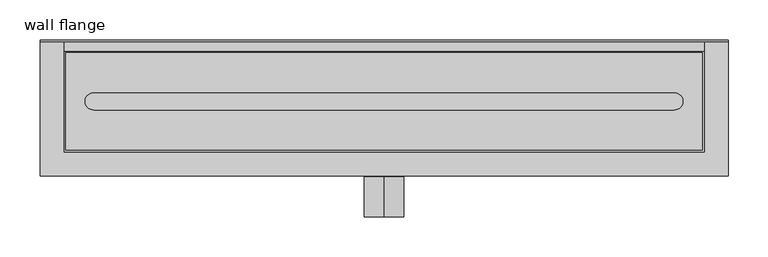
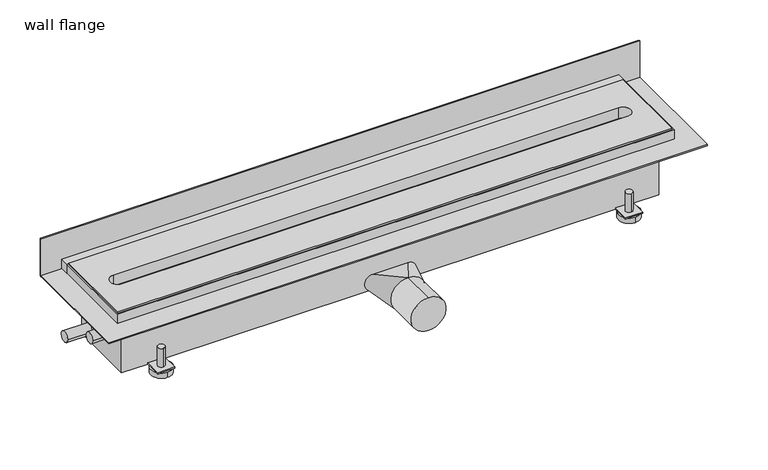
"""IFC4 building model written with IfcOpenShell, lengths in millimetres: sanitary terminal geometry, PF_UN_ShowerDrain X_ACO : wall flange."""

from ifc_helpers import new_model, si_unit, point, frame, frame_2d, origin, origin_with_axes, place, context, project, spatial, polyline, circle_curve, trimmed, segment, composite_curve, outline, extrude, faceted_brep, source, transform, mapped, element, save
from ifc_brep_helpers import plane_surface, cylinder_surface, spline_surface, advanced_brep


def wall_flange_c72accb7(model_context):
    return source(origin(), model_context, "Body", "SolidModel", [
        advanced_brep(
        [(-336.0, 67.0, -56.0), (-336.0, 57.0, -56.0), (-336.0, 77.0, -94.0), (-336.0, 47.0, -94.0), (-336.0, 67.0, -86.0), (-336.0, 57.0, -86.0), (-336.0, 77.0, -86.0), (-336.0, 47.0, -86.0)],
        [
            (0, 1, circle_curve(frame((-336.0, 62.0, -56.0), z_axis=(0.0, 0.0, 1.0), x_axis=(0.0, -1.0, 0.0)), 5.0)),
            (1, 0, circle_curve(frame((-336.0, 62.0, -56.0), z_axis=(0.0, 0.0, 1.0), x_axis=(0.0, -1.0, 0.0)), 5.0)),
            (2, 3, circle_curve(frame((-336.0, 62.0, -94.0), z_axis=(0.0, 0.0, -1.0), x_axis=(0.0, -1.0, 0.0)), 15.0)),
            (3, 2, circle_curve(frame((-336.0, 62.0, -94.0), z_axis=(0.0, 0.0, -1.0), x_axis=(0.0, -1.0, 0.0)), 15.0)),
            (0, 4),
            (4, 5, circle_curve(frame((-336.0, 62.0, -86.0), z_axis=(0.0, 0.0, 1.0), x_axis=(0.0, -1.0, 0.0)), 5.0)),
            (5, 1),
            (5, 4, circle_curve(frame((-336.0, 62.0, -86.0), z_axis=(0.0, 0.0, 1.0), x_axis=(0.0, -1.0, 0.0)), 5.0)),
            (6, 7, circle_curve(frame((-336.0, 62.0, -86.0), z_axis=(0.0, 0.0, 1.0), x_axis=(0.0, -1.0, 0.0)), 15.0)),
            (7, 6, circle_curve(frame((-336.0, 62.0, -86.0), z_axis=(0.0, 0.0, 1.0), x_axis=(0.0, -1.0, 0.0)), 15.0)),
            (6, 2),
            (3, 7),
        ],
        [
            plane_surface(frame((-336.0, 57.0, -56.0), z_axis=(0.0, 0.0, 1.0), x_axis=(1.0, 0.0, 0.0))),
            plane_surface(frame((-336.0, 57.0, -94.0), z_axis=(0.0, 0.0, -1.0), x_axis=(-1.0, 0.0, 0.0))),
            cylinder_surface(frame((-336.0, 62.0, -94.0), z_axis=(0.0, 0.0, 1.0), x_axis=(0.0, -1.0, 0.0)), 5.0),
            plane_surface(frame((-336.0, 47.0, -86.0), z_axis=(0.0, 0.0, 1.0), x_axis=(1.0, 0.0, 0.0))),
            cylinder_surface(frame((-336.0, 62.0, -94.0), z_axis=(0.0, 0.0, 1.0), x_axis=(0.0, -1.0, 0.0)), 15.0),
        ],
        [
            (0, [[1, 2]]),
            (1, [[3, 4]]),
            (2, [[-1, 5, 6, 7]]),
            (2, [[-2, -7, 8, -5]]),
            (3, [[9, 10], [-6, -8]]),
            (4, [[-9, 11, -4, 12]]),
            (4, [[-10, -12, -3, -11]]),
        ],
    ),
        advanced_brep(
        [(-336.0, -56.5, -56.0), (-336.0, -66.5, -56.0), (-336.0, -46.5, -94.0), (-336.0, -76.5, -94.0), (-336.0, -56.5, -86.0), (-336.0, -66.5, -86.0), (-336.0, -46.5, -86.0), (-336.0, -76.5, -86.0)],
        [
            (0, 1, circle_curve(frame((-336.0, -61.5, -56.0), z_axis=(0.0, 0.0, 1.0), x_axis=(0.0, -1.0, 0.0)), 5.0)),
            (1, 0, circle_curve(frame((-336.0, -61.5, -56.0), z_axis=(0.0, 0.0, 1.0), x_axis=(0.0, -1.0, 0.0)), 5.0)),
            (2, 3, circle_curve(frame((-336.0, -61.5, -94.0), z_axis=(0.0, 0.0, -1.0), x_axis=(0.0, -1.0, 0.0)), 15.0)),
            (3, 2, circle_curve(frame((-336.0, -61.5, -94.0), z_axis=(0.0, 0.0, -1.0), x_axis=(0.0, -1.0, 0.0)), 15.0)),
            (0, 4),
            (4, 5, circle_curve(frame((-336.0, -61.5, -86.0), z_axis=(0.0, 0.0, 1.0), x_axis=(0.0, -1.0, 0.0)), 5.0)),
            (5, 1),
            (5, 4, circle_curve(frame((-336.0, -61.5, -86.0), z_axis=(0.0, 0.0, 1.0), x_axis=(0.0, -1.0, 0.0)), 5.0)),
            (6, 7, circle_curve(frame((-336.0, -61.5, -86.0), z_axis=(0.0, 0.0, 1.0), x_axis=(0.0, -1.0, 0.0)), 15.0)),
            (7, 6, circle_curve(frame((-336.0, -61.5, -86.0), z_axis=(0.0, 0.0, 1.0), x_axis=(0.0, -1.0, 0.0)), 15.0)),
            (6, 2),
            (3, 7),
        ],
        [
            plane_surface(frame((-336.0, 57.0, -56.0), z_axis=(0.0, 0.0, 1.0), x_axis=(1.0, 0.0, 0.0))),
            plane_surface(frame((-336.0, 57.0, -94.0), z_axis=(0.0, 0.0, -1.0), x_axis=(-1.0, 0.0, 0.0))),
            cylinder_surface(frame((-336.0, -61.5, -94.0), z_axis=(0.0, 0.0, 1.0), x_axis=(0.0, -1.0, 0.0)), 5.0),
            plane_surface(frame((-336.0, 47.0, -86.0), z_axis=(0.0, 0.0, 1.0), x_axis=(1.0, 0.0, 0.0))),
            cylinder_surface(frame((-336.0, -61.5, -94.0), z_axis=(0.0, 0.0, 1.0), x_axis=(0.0, -1.0, 0.0)), 15.0),
        ],
        [
            (0, [[1, 2]]),
            (1, [[3, 4]]),
            (2, [[-1, 5, 6, 7]]),
            (2, [[-2, -7, 8, -5]]),
            (3, [[9, 10], [-6, -8]]),
            (4, [[-9, 11, -4, 12]]),
            (4, [[-10, -12, -3, -11]]),
        ],
    ),
        advanced_brep(
        [(336.0, 67.0, -56.0), (336.0, 57.0, -56.0), (336.0, 77.0, -94.0), (336.0, 47.0, -94.0), (336.0, 67.0, -86.0), (336.0, 57.0, -86.0), (336.0, 77.0, -86.0), (336.0, 47.0, -86.0)],
        [
            (0, 1, circle_curve(frame((336.0, 62.0, -56.0), z_axis=(0.0, 0.0, 1.0), x_axis=(0.0, -1.0, 0.0)), 5.0)),
            (1, 0, circle_curve(frame((336.0, 62.0, -56.0), z_axis=(0.0, 0.0, 1.0), x_axis=(0.0, -1.0, 0.0)), 5.0)),
            (2, 3, circle_curve(frame((336.0, 62.0, -94.0), z_axis=(0.0, 0.0, -1.0), x_axis=(0.0, -1.0, 0.0)), 15.0)),
            (3, 2, circle_curve(frame((336.0, 62.0, -94.0), z_axis=(0.0, 0.0, -1.0), x_axis=(0.0, -1.0, 0.0)), 15.0)),
            (0, 4),
            (4, 5, circle_curve(frame((336.0, 62.0, -86.0), z_axis=(0.0, 0.0, 1.0), x_axis=(0.0, -1.0, 0.0)), 5.0)),
            (5, 1),
            (5, 4, circle_curve(frame((336.0, 62.0, -86.0), z_axis=(0.0, 0.0, 1.0), x_axis=(0.0, -1.0, 0.0)), 5.0)),
            (6, 7, circle_curve(frame((336.0, 62.0, -86.0), z_axis=(0.0, 0.0, 1.0), x_axis=(0.0, -1.0, 0.0)), 15.0)),
            (7, 6, circle_curve(frame((336.0, 62.0, -86.0), z_axis=(0.0, 0.0, 1.0), x_axis=(0.0, -1.0, 0.0)), 15.0)),
            (6, 2),
            (3, 7),
        ],
        [
            plane_surface(frame((-336.0, 57.0, -56.0), z_axis=(0.0, 0.0, 1.0), x_axis=(1.0, 0.0, 0.0))),
            plane_surface(frame((-336.0, 57.0, -94.0), z_axis=(0.0, 0.0, -1.0), x_axis=(-1.0, 0.0, 0.0))),
            cylinder_surface(frame((336.0, 62.0, -94.0), z_axis=(0.0, 0.0, 1.0), x_axis=(0.0, -1.0, 0.0)), 5.0),
            plane_surface(frame((-336.0, 47.0, -86.0), z_axis=(0.0, 0.0, 1.0), x_axis=(1.0, 0.0, 0.0))),
            cylinder_surface(frame((336.0, 62.0, -94.0), z_axis=(0.0, 0.0, 1.0), x_axis=(0.0, -1.0, 0.0)), 15.0),
        ],
        [
            (0, [[1, 2]]),
            (1, [[3, 4]]),
            (2, [[-1, 5, 6, 7]]),
            (2, [[-2, -7, 8, -5]]),
            (3, [[9, 10], [-6, -8]]),
            (4, [[-9, 11, -4, 12]]),
            (4, [[-10, -12, -3, -11]]),
        ],
    ),
        advanced_brep(
        [(336.0, -56.5, -56.0), (336.0, -66.5, -56.0), (336.0, -46.5, -94.0), (336.0, -76.5, -94.0), (336.0, -56.5, -86.0), (336.0, -66.5, -86.0), (336.0, -46.5, -86.0), (336.0, -76.5, -86.0)],
        [
            (0, 1, circle_curve(frame((336.0, -61.5, -56.0), z_axis=(0.0, 0.0, 1.0), x_axis=(0.0, -1.0, 0.0)), 5.0)),
            (1, 0, circle_curve(frame((336.0, -61.5, -56.0), z_axis=(0.0, 0.0, 1.0), x_axis=(0.0, -1.0, 0.0)), 5.0)),
            (2, 3, circle_curve(frame((336.0, -61.5, -94.0), z_axis=(0.0, 0.0, -1.0), x_axis=(0.0, -1.0, 0.0)), 15.0)),
            (3, 2, circle_curve(frame((336.0, -61.5, -94.0), z_axis=(0.0, 0.0, -1.0), x_axis=(0.0, -1.0, 0.0)), 15.0)),
            (0, 4),
            (4, 5, circle_curve(frame((336.0, -61.5, -86.0), z_axis=(0.0, 0.0, 1.0), x_axis=(0.0, -1.0, 0.0)), 5.0)),
            (5, 1),
            (5, 4, circle_curve(frame((336.0, -61.5, -86.0), z_axis=(0.0, 0.0, 1.0), x_axis=(0.0, -1.0, 0.0)), 5.0)),
            (6, 7, circle_curve(frame((336.0, -61.5, -86.0), z_axis=(0.0, 0.0, 1.0), x_axis=(0.0, -1.0, 0.0)), 15.0)),
            (7, 6, circle_curve(frame((336.0, -61.5, -86.0), z_axis=(0.0, 0.0, 1.0), x_axis=(0.0, -1.0, 0.0)), 15.0)),
            (6, 2),
            (3, 7),
        ],
        [
            plane_surface(frame((-336.0, 57.0, -56.0), z_axis=(0.0, 0.0, 1.0), x_axis=(1.0, 0.0, 0.0))),
            plane_surface(frame((-336.0, 57.0, -94.0), z_axis=(0.0, 0.0, -1.0), x_axis=(-1.0, 0.0, 0.0))),
            cylinder_surface(frame((336.0, -61.5, -94.0), z_axis=(0.0, 0.0, 1.0), x_axis=(0.0, -1.0, 0.0)), 5.0),
            plane_surface(frame((-336.0, 47.0, -86.0), z_axis=(0.0, 0.0, 1.0), x_axis=(1.0, 0.0, 0.0))),
            cylinder_surface(frame((336.0, -61.5, -94.0), z_axis=(0.0, 0.0, 1.0), x_axis=(0.0, -1.0, 0.0)), 15.0),
        ],
        [
            (0, [[1, 2]]),
            (1, [[3, 4]]),
            (2, [[-1, 5, 6, 7]]),
            (2, [[-2, -7, 8, -5]]),
            (3, [[9, 10], [-6, -8]]),
            (4, [[-9, 11, -4, 12]]),
            (4, [[-10, -12, -3, -11]]),
        ],
    ),
        extrude(outline(polyline([(400.0, 75.0), (400.0, 63.0), (-400.0, 63.0), (-400.0, 75.0), (400.0, 75.0)])), frame((0.0, 0.0, 2.0), z_axis=(0.0, 0.0, 1.0), x_axis=(1.0, 0.0, 0.0)), (0.0, 0.0, 1.0), 14.0),
        extrude(outline(polyline([(430.0, 75.0), (-430.0, 75.0), (-430.0, 77.0), (430.0, 77.0), (430.0, 75.0)])), origin_with_axes(), (0.0, 0.0, 1.0), 57.0),
        advanced_brep(
        [(386.0, 50.0, -86.0), (386.0, -49.0, -86.0), (348.5, -49.0, -86.0), (348.5, -74.0, -86.0), (323.5, -74.0, -86.0), (323.5, -49.0, -86.0), (-323.5, -49.0, -86.0), (-323.5, -74.0, -86.0), (-348.5, -74.0, -86.0), (-348.5, -49.0, -86.0), (-386.0, -49.0, -86.0), (-386.0, 50.0, -86.0), (-348.5, 50.0, -86.0), (-348.5, 74.0, -86.0), (-323.5, 74.0, -86.0), (-323.5, 50.0, -86.0), (323.5, 50.0, -86.0), (323.5, 74.0, -86.0), (348.5, 74.0, -86.0), (348.5, 50.0, -86.0), (386.0, 50.0, -8.0), (-386.0, 50.0, -8.0), (-386.0, -49.0, -8.0), (386.0, -49.0, -8.0), (348.5, 50.0, -84.0), (323.5, 50.0, -84.0), (-323.5, 50.0, -84.0), (-348.5, 50.0, -84.0), (-386.0, 39.85, -68.0), (-386.0, 24.15, -68.0), (-386.0, -22.15, -32.0), (-386.0, -37.85, -32.0), (-348.5, -49.0, -84.0), (-323.5, -49.0, -84.0), (323.5, -49.0, -84.0), (348.5, -49.0, -84.0), (-421.0, 39.85, -68.0), (-421.0, 24.15, -68.0), (-421.0, -22.15, -32.0), (-421.0, -37.85, -32.0), (-323.5, 74.0, -84.0), (-348.5, 74.0, -84.0), (348.5, 74.0, -84.0), (323.5, 74.0, -84.0), (348.5, -74.0, -84.0), (323.5, -74.0, -84.0), (-348.5, -74.0, -84.0), (-323.5, -74.0, -84.0)],
        [
            (0, 1),
            (1, 2),
            (2, 3),
            (3, 4),
            (4, 5),
            (5, 6),
            (6, 7),
            (7, 8),
            (8, 9),
            (9, 10),
            (10, 11),
            (11, 12),
            (12, 13),
            (13, 14),
            (14, 15),
            (15, 16),
            (16, 17),
            (17, 18),
            (18, 19),
            (19, 0),
            (20, 21),
            (21, 22),
            (22, 23),
            (23, 20),
            (20, 0),
            (19, 24),
            (24, 25),
            (25, 16),
            (15, 26),
            (26, 27),
            (27, 12),
            (11, 21),
            (10, 22),
            (28, 29, circle_curve(frame((-386.0, 32.0, -68.0), z_axis=(1.0, 0.0, 0.0), x_axis=(0.0, -1.0, 0.0)), 7.85)),
            (29, 28, circle_curve(frame((-386.0, 32.0, -68.0), z_axis=(1.0, 0.0, 0.0), x_axis=(0.0, -1.0, 0.0)), 7.85)),
            (30, 31, circle_curve(frame((-386.0, -30.0, -32.0), z_axis=(1.0, 0.0, 0.0), x_axis=(0.0, -1.0, 0.0)), 7.85)),
            (31, 30, circle_curve(frame((-386.0, -30.0, -32.0), z_axis=(1.0, 0.0, 0.0), x_axis=(0.0, -1.0, 0.0)), 7.85)),
            (9, 32),
            (32, 33),
            (33, 6),
            (5, 34),
            (34, 35),
            (35, 2),
            (1, 23),
            (36, 37, circle_curve(frame((-421.0, 32.0, -68.0), z_axis=(-1.0, 0.0, 0.0), x_axis=(0.0, -1.0, 0.0)), 7.85)),
            (37, 36, circle_curve(frame((-421.0, 32.0, -68.0), z_axis=(-1.0, 0.0, 0.0), x_axis=(0.0, -1.0, 0.0)), 7.85)),
            (37, 29),
            (28, 36),
            (38, 39, circle_curve(frame((-421.0, -30.0, -32.0), z_axis=(-1.0, 0.0, 0.0), x_axis=(0.0, -1.0, 0.0)), 7.85)),
            (39, 38, circle_curve(frame((-421.0, -30.0, -32.0), z_axis=(-1.0, 0.0, 0.0), x_axis=(0.0, -1.0, 0.0)), 7.85)),
            (39, 31),
            (30, 38),
            (40, 41),
            (41, 27),
            (26, 40),
            (42, 43),
            (43, 25),
            (24, 42),
            (44, 35),
            (34, 45),
            (45, 44),
            (46, 47),
            (47, 33),
            (32, 46),
            (40, 14),
            (13, 41),
            (42, 18),
            (17, 43),
            (44, 3),
            (4, 45),
            (46, 8),
            (7, 47),
        ],
        [
            plane_surface(frame((-386.0, 50.0, -86.0), z_axis=(0.0, 0.0, -1.0), x_axis=(1.0, 0.0, 0.0))),
            plane_surface(frame((-386.0, 50.0, -8.0), z_axis=(0.0, 0.0, 1.0), x_axis=(-1.0, 0.0, 0.0))),
            plane_surface(frame((386.0, 50.0, -8.0), z_axis=(0.0, 1.0, 0.0), x_axis=(0.0, 0.0, -1.0))),
            plane_surface(frame((-386.0, 50.0, -8.0), z_axis=(-1.0, 0.0, 0.0), x_axis=(0.0, 0.0, -1.0))),
            plane_surface(frame((-386.0, -49.0, -8.0), z_axis=(0.0, -1.0, 0.0), x_axis=(0.0, 0.0, -1.0))),
            plane_surface(frame((386.0, -49.0, -8.0), z_axis=(1.0, 0.0, 0.0), x_axis=(0.0, 0.0, -1.0))),
            plane_surface(frame((-421.0, 32.0, -68.0), z_axis=(-1.0, 0.0, 0.0), x_axis=(0.0, 0.0, 1.0))),
            cylinder_surface(frame((0.0, 32.0, -68.0), z_axis=(1.0, 0.0, 0.0), x_axis=(0.0, -1.0, 0.0)), 7.85),
            plane_surface(frame((-421.0, -30.0, -32.0), z_axis=(-1.0, 0.0, 0.0), x_axis=(0.0, 0.0, 1.0))),
            cylinder_surface(frame((0.0, -30.0, -32.0), z_axis=(1.0, 0.0, 0.0), x_axis=(0.0, -1.0, 0.0)), 7.85),
            plane_surface(frame((-348.5, 74.0, -84.0), z_axis=(0.0, 0.0, 1.0), x_axis=(-1.0, 0.0, 0.0))),
            plane_surface(frame((-323.5, 74.0, -84.0), z_axis=(0.0, 1.0, 0.0), x_axis=(0.0, 0.0, -1.0))),
            plane_surface(frame((-348.5, 74.0, -84.0), z_axis=(-1.0, 0.0, 0.0), x_axis=(0.0, 0.0, -1.0))),
            plane_surface(frame((-323.5, 50.0, -84.0), z_axis=(1.0, 0.0, 0.0), x_axis=(0.0, 0.0, -1.0))),
            plane_surface(frame((348.5, 74.0, -84.0), z_axis=(0.0, 1.0, 0.0), x_axis=(0.0, 0.0, -1.0))),
            plane_surface(frame((323.5, 74.0, -84.0), z_axis=(-1.0, 0.0, 0.0), x_axis=(0.0, 0.0, -1.0))),
            plane_surface(frame((348.5, 50.0, -84.0), z_axis=(1.0, 0.0, 0.0), x_axis=(0.0, 0.0, -1.0))),
            plane_surface(frame((348.5, -74.0, -84.0), z_axis=(1.0, 0.0, 0.0), x_axis=(0.0, 0.0, -1.0))),
            plane_surface(frame((323.5, -49.0, -84.0), z_axis=(-1.0, 0.0, 0.0), x_axis=(0.0, 0.0, -1.0))),
            plane_surface(frame((323.5, -74.0, -84.0), z_axis=(0.0, -1.0, 0.0), x_axis=(0.0, 0.0, -1.0))),
            plane_surface(frame((-348.5, -74.0, -84.0), z_axis=(0.0, -1.0, 0.0), x_axis=(0.0, 0.0, -1.0))),
            plane_surface(frame((-323.5, -74.0, -84.0), z_axis=(1.0, 0.0, 0.0), x_axis=(0.0, 0.0, -1.0))),
            plane_surface(frame((-348.5, -49.0, -84.0), z_axis=(-1.0, 0.0, 0.0), x_axis=(0.0, 0.0, -1.0))),
        ],
        [
            (0, [[1, 2, 3, 4, 5, 6, 7, 8, 9, 10, 11, 12, 13, 14, 15, 16, 17, 18, 19, 20]]),
            (1, [[21, 22, 23, 24]]),
            (2, [[-21, 25, -20, 26, 27, 28, -16, 29, 30, 31, -12, 32]]),
            (3, [[-11, 33, -22, -32], [34, 35], [36, 37]]),
            (4, [[-23, -33, -10, 38, 39, 40, -6, 41, 42, 43, -2, 44]]),
            (5, [[-1, -25, -24, -44]]),
            (6, [[45, 46]]),
            (7, [[-46, 47, -34, 48]]),
            (7, [[-45, -48, -35, -47]]),
            (8, [[49, 50]]),
            (9, [[-50, 51, -36, 52]]),
            (9, [[-49, -52, -37, -51]]),
            (10, [[53, 54, -30, 55]]),
            (10, [[56, 57, -27, 58]]),
            (10, [[59, -42, 60, 61]]),
            (10, [[62, 63, -39, 64]]),
            (11, [[-53, 65, -14, 66]]),
            (12, [[-54, -66, -13, -31]]),
            (13, [[-55, -29, -15, -65]]),
            (14, [[-56, 67, -18, 68]]),
            (15, [[-57, -68, -17, -28]]),
            (16, [[-58, -26, -19, -67]]),
            (17, [[-59, 69, -3, -43]]),
            (18, [[-60, -41, -5, 70]]),
            (19, [[-61, -70, -4, -69]]),
            (20, [[-62, 71, -8, 72]]),
            (21, [[-63, -72, -7, -40]]),
            (22, [[-64, -38, -9, -71]]),
        ],
    ),
        extrude(outline(polyline([(398.0, 61.0), (398.0, -61.0), (-398.0, -61.0), (-398.0, 61.0), (398.0, 61.0)]), holes=[composite_curve([segment(polyline([(363.0860312, 10.6770786), (-363.0900069, 10.6770786)]), True, "CONTINUOUS"), segment(trimmed(circle_curve(frame_2d((-363.0900069, 0.0)), 10.6770786), [point((-363.0900069, 10.6770786))], [point((-363.0900069, -10.6770786))], True, "CARTESIAN"), True, "CONTINUOUS"), segment(polyline([(-363.0900069, -10.6770786), (363.0860312, -10.6770786)]), True, "CONTINUOUS"), segment(trimmed(circle_curve(frame_2d((363.0860312, 0.0)), 10.6770786), [point((363.0860312, -10.6770786))], [point((363.0860312, 10.6770786))], True, "CARTESIAN"), True, "CONTINUOUS")], self_intersect=False)]), origin_with_axes(), (0.0, 0.0, 1.0), 18.0),
        advanced_brep(
        [(0.0, -144.5, -99.0), (0.0, -144.5, -49.0), (0.0, -94.5, -99.0), (13.0, -94.5, -95.3541565), (13.0005627, -94.5, -52.6461861), (0.0, -94.5, -49.0), (-13.0, -94.5, -52.6458435), (-13.0, -94.5, -95.3541565), (25.0, -50.0, -86.0), (-25.0, -50.0, -86.0), (-25.0, -50.0, -62.0), (25.0, -50.0, -62.0)],
        [
            (0, 1, circle_curve(frame((0.0, -144.5, -74.0), z_axis=(0.0, -1.0, 0.0), x_axis=(0.0, 0.0, 1.0)), 25.0)),
            (1, 0, circle_curve(frame((0.0, -144.5, -74.0), z_axis=(0.0, -1.0, 0.0), x_axis=(0.0, 0.0, 1.0)), 25.0)),
            (0, 2),
            (2, 3, circle_curve(frame((0.0, -94.5, -74.0), z_axis=(0.0, -1.0, 0.0), x_axis=(0.0, 0.0, 1.0)), 25.0)),
            (3, 4, circle_curve(frame((0.0, -94.5, -74.0), z_axis=(0.0, -1.0, 0.0), x_axis=(0.0, 0.0, 1.0)), 25.0)),
            (4, 5, circle_curve(frame((0.0, -94.5, -74.0), z_axis=(0.0, -1.0, 0.0), x_axis=(0.0, 0.0, 1.0)), 25.0)),
            (5, 1),
            (5, 6, circle_curve(frame((0.0, -94.5, -74.0), z_axis=(0.0, -1.0, 0.0), x_axis=(0.0, 0.0, 1.0)), 25.0)),
            (6, 7, circle_curve(frame((0.0, -94.5, -74.0), z_axis=(0.0, -1.0, 0.0), x_axis=(0.0, 0.0, 1.0)), 25.0)),
            (7, 2, circle_curve(frame((0.0, -94.5, -74.0), z_axis=(0.0, -1.0, 0.0), x_axis=(0.0, 0.0, 1.0)), 25.0)),
            (8, 9),
            (9, 10, circle_curve(frame((-25.0, -50.0, -74.0), z_axis=(0.0, 1.0, 0.0), x_axis=(0.0, 0.0, 1.0)), 12.0)),
            (10, 11),
            (11, 8, circle_curve(frame((25.0, -50.0, -74.0), z_axis=(0.0, 1.0, 0.0), x_axis=(0.0, 0.0, 1.0)), 12.0)),
            (8, 2),
            (2, 9),
            (5, 10),
            (5, 11),
        ],
        [
            plane_surface(frame((0.0, -144.5, -74.0), z_axis=(0.0, -1.0, 0.0), x_axis=(1.0, 0.0, 0.0))),
            cylinder_surface(frame((0.0, -144.5, -74.0), z_axis=(0.0, -1.0, 0.0), x_axis=(0.0, 0.0, 1.0)), 25.0),
            plane_surface(frame((0.0, -50.0, -74.0), z_axis=(0.0, 1.0, 0.0), x_axis=(-1.0, 0.0, 0.0))),
            plane_surface(frame((0.0, -94.5, -99.0), z_axis=(0.0, 0.2804141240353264, -0.9598791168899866), x_axis=(-1.0, 0.0, 0.0))),
            spline_surface(2, 1, [[(0.0, -94.5, -99.0), (-25.0, -50.0, -86.0)], [(-25.0, -94.5, -99.0), (-37.0, -50.0, -86.0)], [(-25.0, -94.5, -74.0), (-37.0, -50.0, -74.0)], [(-25.0, -94.5, -49.0), (-37.0, -50.0, -62.0)], [(0.0, -94.5, -49.0), (-25.0, -50.0, -62.0)]], [3, 2, 3], [2, 2], [0.0, 1.0, 2.0], [0.0, 1.0], weights=[[1.0, 1.0], [0.7071067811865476, 0.7071067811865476], [1.0, 1.0], [0.7071067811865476, 0.7071067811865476], [1.0, 1.0]]),
            plane_surface(frame((0.0, -94.5, -49.0), z_axis=(0.0, 0.2804141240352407, 0.9598791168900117), x_axis=(1.0, 0.0, 0.0))),
            spline_surface(2, 1, [[(0.0, -94.5, -49.0), (25.0, -50.0, -62.0)], [(25.0, -94.5, -49.0), (37.0, -50.0, -62.0)], [(25.0, -94.5, -74.0), (37.0, -50.0, -74.0)], [(25.0, -94.5, -99.0), (37.0, -50.0, -86.0)], [(0.0, -94.5, -99.0), (25.0, -50.0, -86.0)]], [3, 2, 3], [2, 2], [0.0, 1.0, 2.0], [0.0, 1.0], weights=[[1.0, 1.0], [0.7071067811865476, 0.7071067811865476], [1.0, 1.0], [0.7071067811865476, 0.7071067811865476], [1.0, 1.0]]),
        ],
        [
            (0, [[1, 2]]),
            (1, [[-1, 3, 4, 5, 6, 7]]),
            (1, [[-2, -7, 8, 9, 10, -3]]),
            (2, [[11, 12, 13, 14]]),
            (3, [[-11, 15, 16]]),
            (4, [[-12, -16, -10, -9, -8, 17]]),
            (5, [[-13, -17, 18]]),
            (6, [[-14, -18, -6, -5, -4, -15]]),
        ],
    ),
        extrude(outline(polyline([(430.0, 77.0), (430.0, -93.0), (-430.0, -93.0), (-430.0, 77.0), (430.0, 77.0)])), origin_with_axes(), (0.0, 0.0, 1.0), 2.0),
        faceted_brep([(400.0, 63.0, 16.0), (-400.0, 63.0, 16.0), (-400.0, -63.0, 16.0), (400.0, -63.0, 16.0), (-398.0, 61.0, 16.0), (398.0, 61.0, 16.0), (398.0, -61.0, 16.0), (-398.0, -61.0, 16.0), (400.0, 63.0, -8.0), (400.0, -63.0, -8.0), (-400.0, -63.0, -8.0), (-400.0, 63.0, -8.0), (398.0, 61.0, -6.0), (-398.0, 61.0, -6.0), (-398.0, -61.0, -6.0), (398.0, -61.0, -6.0)], [[[0, 1, 2, 3], [4, 5, 6, 7]], [[8, 9, 10, 11]], [[1, 0, 8, 11]], [[2, 1, 11, 10]], [[3, 2, 10, 9]], [[0, 3, 9, 8]], [[12, 13, 14, 15]], [[13, 12, 5, 4]], [[14, 13, 4, 7]], [[15, 14, 7, 6]], [[12, 15, 6, 5]]]),
    ])


if __name__ == "__main__":
    model = new_model("IFC4")
    model_context = context("Model", 3, world=origin())
    ifc_project = project(units=[si_unit("LENGTHUNIT", "METRE", prefix="MILLI")], contexts=[model_context])
    site = spatial("IfcSite", under=ifc_project)
    building = spatial("IfcBuilding", under=site)
    placement = place(None, origin())
    wall_flange_shape = wall_flange_c72accb7(model_context)
    element("IfcSanitaryTerminal", 1, ObjectType="PF_UN_ShowerDrain X_ACO : wall flange", at=placement, inside=building, context=model_context, shape_type="MappedRepresentation", body=[
        mapped(wall_flange_shape, transform((0.0, 0.0, 0.0), x_axis=(1.0, 0.0, 0.0), y_axis=(0.0, 1.0, 0.0), z_axis=(0.0, 0.0, 1.0))),
    ])
    save(model, "model.ifc")
